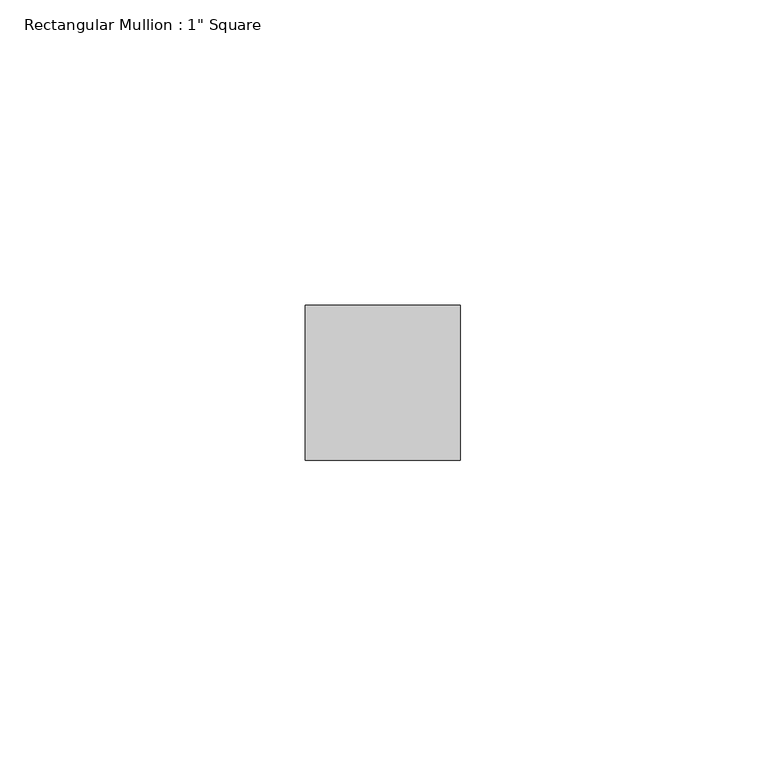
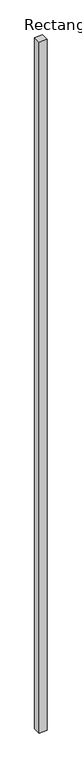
"""IFC4 building model written with IfcOpenShell, lengths in millimetres: member geometry."""

import ifcopenshell
import ifcopenshell.guid

model = None  # the IFC model being written
_history = None  # IfcOwnerHistory: only IFC2X3 demands one
_inside = {}  # id of a spatial element -> (the spatial element, [elements in it])
_under = {}  # id of a project, library or spatial element -> (it, [spatial elements below it])
_declared = {}  # id of a project -> (the project, [libraries it declares])
_typed = {}  # id of a type object -> (the type object, [elements of that type])
_made_of = {}  # id of a material, layer set ... -> (it, [elements and type objects made of it])


def new_model(schema):
    """Start an empty IFC model of exactly this schema.

    Asked for "IFC4X3", IfcOpenShell would pick the latest addendum, in which some entities
    have other attributes; the version numbers below select the first issue.
    IFC2X3 requires an IfcOwnerHistory on every rooted entity: one is made here for all.
    """
    global model, _history
    if schema == "IFC4X3":
        model = ifcopenshell.file(schema_version=(4, 3, 0, 0))
    else:
        model = ifcopenshell.file(schema=schema)
    _inside.clear()
    _under.clear()
    _declared.clear()
    _typed.clear()
    _made_of.clear()
    _history = None
    if model.schema == "IFC2X3":
        org = make("IfcOrganization", Name="unknown")
        user = make(
            "IfcPersonAndOrganization",
            ThePerson=make("IfcPerson", FamilyName="unknown"),
            TheOrganization=org,
        )
        app = make(
            "IfcApplication",
            ApplicationDeveloper=org,
            Version="unknown",
            ApplicationFullName="unknown",
            ApplicationIdentifier="unknown",
        )
        _history = make(
            "IfcOwnerHistory",
            OwningUser=user,
            OwningApplication=app,
            ChangeAction="ADDED",
            CreationDate=0,
        )
    return model


def make(cls, **values):
    """One entity of the class cls with the attributes given. An attribute that is None is left unset."""
    return model.create_entity(
        cls, **{name: value for name, value in values.items() if value is not None}
    )


def rooted(cls, **values):
    """An entity with a GlobalId (a new one), such as an element, a storey or a relation."""
    return make(cls, GlobalId=ifcopenshell.guid.new(), OwnerHistory=_history, **values)


def si_unit(unit_type, name, prefix=None):
    """IfcSIUnit, for example si_unit("LENGTHUNIT", "METRE", prefix="MILLI")."""
    return make("IfcSIUnit", UnitType=unit_type, Prefix=prefix, Name=name)


def assignment(units):
    """IfcUnitAssignment: the units of a project."""
    return None if units is None else make("IfcUnitAssignment", Units=units)


def point(xyz):
    """IfcCartesianPoint."""
    return None if xyz is None else make("IfcCartesianPoint", Coordinates=xyz)


def direction(xyz):
    """IfcDirection."""
    return None if xyz is None else make("IfcDirection", DirectionRatios=xyz)


def frame(location, z_axis=None, x_axis=None):
    """IfcAxis2Placement3D, a coordinate frame: its origin and axes. An axis left out is left unset."""
    return make(
        "IfcAxis2Placement3D",
        Location=point(location),
        Axis=direction(z_axis),
        RefDirection=direction(x_axis),
    )


def origin():
    """The frame at (0, 0, 0) with its axes left unset."""
    return frame((0.0, 0.0, 0.0))


def place(relative_to, where):
    """IfcLocalPlacement: puts the frame where relative to a parent placement (None: the world)."""
    return make(
        "IfcLocalPlacement", PlacementRelTo=relative_to, RelativePlacement=where
    )


def context(
    kind, dimensions, precision=None, world=None, true_north=None, identifier=None
):
    """IfcGeometricRepresentationContext, for example the 3D "Model" context."""
    return make(
        "IfcGeometricRepresentationContext",
        ContextIdentifier=identifier,
        ContextType=kind,
        CoordinateSpaceDimension=dimensions,
        Precision=precision,
        WorldCoordinateSystem=world,
        TrueNorth=true_north,
    )


def project(units=None, contexts=None):
    """IfcProject with its units and contexts."""
    return rooted(
        "IfcProject",
        Name="project",
        RepresentationContexts=contexts,
        UnitsInContext=assignment(units),
    )


def spatial(cls, under=None, at=None, **own):
    """A site, building, storey or space (cls), placed at a placement, below another one or the project."""
    s = rooted(cls, ObjectPlacement=at, **own)
    if under is not None:
        _under.setdefault(under.id(), (under, []))[1].append(s)
    return s


def polyline(points):
    """IfcPolyline through the points."""
    return make("IfcPolyline", Points=[point(p) for p in points])


def outline(outer, holes=None, kind="AREA"):
    """IfcArbitraryClosedProfileDef: a profile drawn as a closed curve; with holes, ...WithVoids."""
    if holes is None:
        return make("IfcArbitraryClosedProfileDef", ProfileType=kind, OuterCurve=outer)
    return make(
        "IfcArbitraryProfileDefWithVoids",
        ProfileType=kind,
        OuterCurve=outer,
        InnerCurves=holes,
    )


def extrude(swept, where, along, depth):
    """IfcExtrudedAreaSolid: the profile swept, set in the frame where, extruded along a direction by depth."""
    return make(
        "IfcExtrudedAreaSolid",
        SweptArea=swept,
        Position=where,
        ExtrudedDirection=direction(along),
        Depth=depth,
    )


def shape(context_of_items, identifier, shape_type, items):
    """IfcShapeRepresentation: the items that make up one representation, for example the "Body"."""
    return make(
        "IfcShapeRepresentation",
        ContextOfItems=context_of_items,
        RepresentationIdentifier=identifier,
        RepresentationType=shape_type,
        Items=items,
    )


def source(mapping_origin, context_of_items, identifier, shape_type, items):
    """IfcRepresentationMap: a shape defined once, which mapped items show again and again."""
    return make(
        "IfcRepresentationMap",
        MappingOrigin=mapping_origin,
        MappedRepresentation=shape(context_of_items, identifier, shape_type, items),
    )


def transform(
    local_origin,
    x_axis=None,
    y_axis=None,
    z_axis=None,
    scale=None,
    scale2=None,
    scale3=None,
    uniform=True,
):
    """IfcCartesianTransformationOperator3D, or its non-uniform kind. x_axis, y_axis, z_axis: its Axis1, 2, 3."""
    if uniform:
        return make(
            "IfcCartesianTransformationOperator3D",
            Axis1=direction(x_axis),
            Axis2=direction(y_axis),
            LocalOrigin=point(local_origin),
            Scale=scale,
            Axis3=direction(z_axis),
        )
    return make(
        "IfcCartesianTransformationOperator3DnonUniform",
        Axis1=direction(x_axis),
        Axis2=direction(y_axis),
        LocalOrigin=point(local_origin),
        Scale=scale,
        Axis3=direction(z_axis),
        Scale2=scale2,
        Scale3=scale3,
    )


def mapped(mapping_source, mapping_target):
    """IfcMappedItem: shows the shape of a source again, moved by a transform."""
    return make(
        "IfcMappedItem", MappingSource=mapping_source, MappingTarget=mapping_target
    )


def made_of(thing, what):
    """Note that an element or type object is made of a material, layer set ...; save() writes the relation."""
    if what is not None:
        _made_of.setdefault(what.id(), (what, []))[1].append(thing)
    return thing


def element(
    cls,
    number,
    at=None,
    inside=None,
    cuts=None,
    type_object=None,
    material=None,
    context=None,
    identifier="Body",
    shape_type=None,
    held_by="IfcProductDefinitionShape",
    body=None,
    shapes=None,
    **own,
):
    """One element of the class cls, such as IfcWall. Its Tag is "e" and its number.

    at: its placement. inside: the storey or other place that contains it. cuts: it is an
    opening in that element (IfcRelVoidsElement). A single representation is given by context,
    identifier, shape_type and body (its items); several are given by shapes. held_by: the class
    of the entity that holds the representations. save() writes the other relations.
    """
    e = rooted(cls, Tag="e%d" % number, ObjectPlacement=at, **own)
    if body is not None:
        shapes = [shape(context, identifier, shape_type, body)]
    if shapes is not None:
        e.Representation = make(held_by, Representations=shapes)
    if inside is not None:
        _inside.setdefault(inside.id(), (inside, []))[1].append(e)
    if cuts is not None:
        rooted(
            "IfcRelVoidsElement", RelatingBuildingElement=cuts, RelatedOpeningElement=e
        )
    if type_object is not None:
        _typed.setdefault(type_object.id(), (type_object, []))[1].append(e)
    return made_of(e, material)


def aggregate(whole, parts):
    """IfcRelAggregates: a whole, such as a stair, and the parts it consists of."""
    return rooted("IfcRelAggregates", RelatingObject=whole, RelatedObjects=parts)


def save(model, path):
    """Write the relations noted so far, then the file.

    IfcRelAggregates (storeys below a building ...), IfcRelContainedInSpatialStructure (elements
    in a storey), IfcRelDefinesByType, IfcRelAssociatesMaterial and IfcRelDeclares: one each for
    every whole, place, type object, material and project.
    """
    for whole, parts in _under.values():
        aggregate(whole, parts)
    for where, things in _inside.values():
        rooted(
            "IfcRelContainedInSpatialStructure",
            RelatedElements=things,
            RelatingStructure=where,
        )
    for kind, things in _typed.values():
        rooted("IfcRelDefinesByType", RelatedObjects=things, RelatingType=kind)
    for what, things in _made_of.values():
        rooted("IfcRelAssociatesMaterial", RelatedObjects=things, RelatingMaterial=what)
    for by, libraries in _declared.values():
        rooted("IfcRelDeclares", RelatingContext=by, RelatedDefinitions=libraries)
    model.write(path)


def member_f4d1524e(model_context):
    return source(origin(), model_context, "Body", "SweptSolid", [
        extrude(outline(polyline([(12.7, 12.7), (12.7, -12.7), (-12.7, -12.7), (-12.7, 12.7), (12.7, 12.7)])), frame((0.0, 0.0, -2335.1229586), z_axis=(0.0, 0.0, 1.0), x_axis=(1.0, 0.0, 0.0)), (0.0, 0.0, 1.0), 2335.1229586),
    ])


if __name__ == "__main__":
    model = new_model("IFC4")
    model_context = context("Model", 3, world=origin())
    ifc_project = project(units=[si_unit("LENGTHUNIT", "METRE", prefix="MILLI")], contexts=[model_context])
    site = spatial("IfcSite", under=ifc_project)
    building = spatial("IfcBuilding", under=site)
    placement = place(None, origin())
    member_shape = member_f4d1524e(model_context)
    element("IfcMember", 1, ObjectType="Rectangular Mullion : 1\" Square", at=placement, inside=building, context=model_context, shape_type="MappedRepresentation", body=[
        mapped(member_shape, transform((0.0, 0.0, 0.0), x_axis=(1.0, 0.0, 0.0), y_axis=(0.0, 1.0, 0.0), z_axis=(0.0, 0.0, 1.0))),
    ])
    save(model, "model.ifc")
